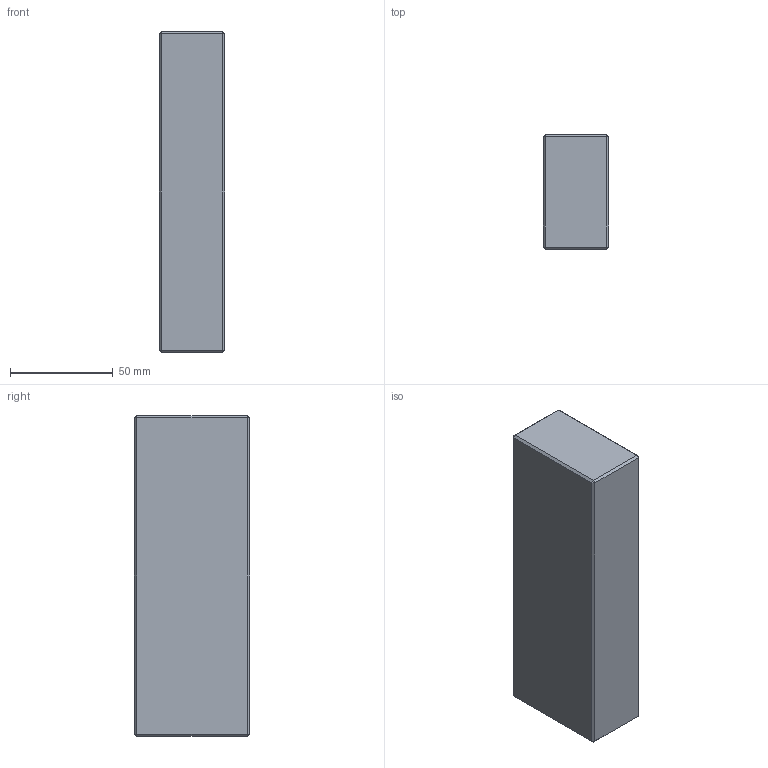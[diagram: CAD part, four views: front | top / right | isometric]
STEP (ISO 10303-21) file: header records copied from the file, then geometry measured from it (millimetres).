
FILE_DESCRIPTION (( 'STEP AP214' ), '1' );
FILE_NAME ('ESP-P-156X156x56.STEP', '2020-04-08T10:10:05', ( 'August' ), ( '' ), 'SwSTEP 2.0', 'SolidWorks 2018', '' );
FILE_SCHEMA (( 'AUTOMOTIVE_DESIGN' ));
Length unit declared in the file: millimetre
Products named in the file (1): ESP-P-156X156x56
Bounding box: 32 x 56 x 156 mm (x, y, z)
Volume: 279069.3 mm3; surface area: 30465.3 mm2
Topology: 1 solids, 1 shells, 26 faces, 48 edges, 24 vertices
Faces by surface type: plane 26
Entity records: 634 total; most frequent: DIRECTION 102, CARTESIAN_POINT 99, ORIENTED_EDGE 96, EDGE_CURVE 48, LINE 48, VECTOR 48, AXIS2_PLACEMENT_3D 27, EDGE_LOOP 26
